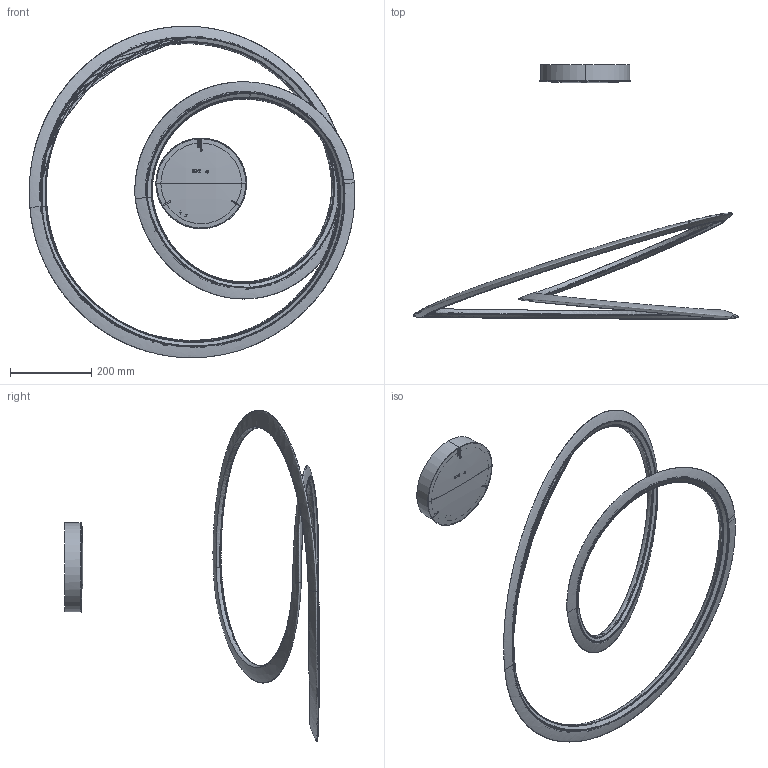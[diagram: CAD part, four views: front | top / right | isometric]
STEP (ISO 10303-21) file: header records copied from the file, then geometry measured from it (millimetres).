
FILE_DESCRIPTION (( 'STEP AP203' ), '1' );
FILE_NAME ('3D_KEPLER_MINOR_DOWN_LIGHT.STEP', '2022-04-06T09:52:25', ( '' ), ( '' ), 'SwSTEP 2.0', 'SolidWorks 2016', '' );
FILE_SCHEMA (( 'CONFIG_CONTROL_DESIGN' ));
Length unit declared in the file: millimetre
Products named in the file (5): 3D_KEPLER_MINOR_DOWN_LIGHT; 052KEP700300_A_DIFFUSORE KEPLER APPLICATOMARTI-1^3D_KEPLER_UP_LIGHT; Group3^3D_KEPLER_UP_LIGHT; 049KEP700100_CORPO KEPLER_DEFINITVOMARTI-1^3D_KEPLER_UP_LIGHT; ROSONE
Assembly tree (4 placements, depth 3):
  3D_KEPLER_MINOR_DOWN_LIGHT
    052KEP700300_A_DIFFUSORE KEPLER APPLICATOMARTI-1^3D_KEPLER_UP_LIGHT
    049KEP700100_CORPO KEPLER_DEFINITVOMARTI-1^3D_KEPLER_UP_LIGHT
    ROSONE
      Group3^3D_KEPLER_UP_LIGHT
Bounding box: 803.58 x 627.94 x 818.24 mm (x, y, z)
Volume: 2965409.9 mm3; surface area: 822813.4 mm2
Topology: 3 solids, 3 shells, 273 faces, 765 edges, 504 vertices
Faces by surface type: bspline 126, plane 123, cylinder 21, cone 3
Entity records: 34176 total; most frequent: CARTESIAN_POINT 27895, ORIENTED_EDGE 1530, EDGE_CURVE 765, DIRECTION 650, VERTEX_POINT 504, B_SPLINE_CURVE_WITH_KNOTS 460, EDGE_LOOP 287, FACE_OUTER_BOUND 273
